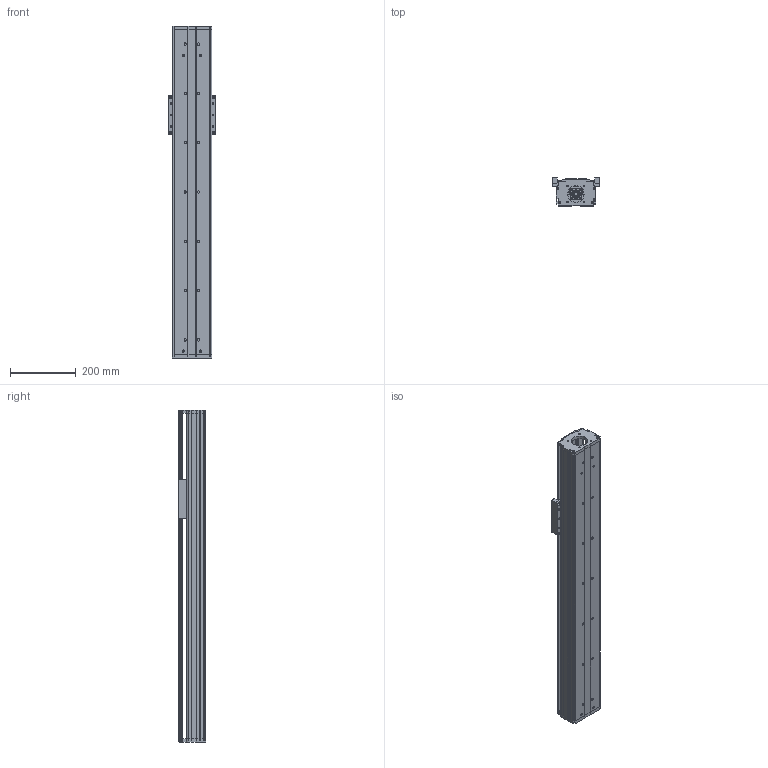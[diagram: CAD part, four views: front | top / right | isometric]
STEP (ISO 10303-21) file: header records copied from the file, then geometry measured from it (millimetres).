
FILE_DESCRIPTION (( 'STEP AP203' ), '1' );
FILE_NAME ('CF120-P800.STEP', '2016-02-23T02:06:40', ( 'Sky123.Org' ), ( 'Sky123.Org' ), 'SwSTEP 2.0', 'SolidWorks 2015', '' );
FILE_SCHEMA (( 'CONFIG_CONTROL_DESIGN' ));
Length unit declared in the file: millimetre
Products named in the file (15): EF12; CF120賑雄啣; cf120-60萇儂釱; CF120蹟譫釱; CF120傷裔耜啣-sigan; EGR15-P600-880; EGH-15-CABZnew; EK12+EF12-P600-744; SFU1605-3蹟譫; CF120-P350-540臏倰第; EK12; CF120-P350-560裔啣; 粣創結啣; CF120-P800
Assembly tree (18 placements, depth 3):
  CF120-P800
    cf120-60萇儂釱
    CF120傷裔耜啣-sigan
    EGH-15-CABZnew  x4
    SFU1605-3蹟譫
    EK12
      EK12
      粣創結啣
    EF12
    CF120賑雄啣
    CF120蹟譫釱
    EGR15-P600-880  x2
    EK12+EF12-P600-744
    CF120-P350-540臏倰第
    CF120-P350-560裔啣
Bounding box: 140 x 84.5 x 1010 mm (x, y, z)
Volume: 3472573.8 mm3; surface area: 1190594.9 mm2
Topology: 13 solids, 65 shells, 7329 faces, 27606 edges, 18973 vertices
Faces by surface type: plane 3545, bspline 2351, cylinder 1043, cone 150, torus 136, sphere 104
Entity records: 131757 total; most frequent: CARTESIAN_POINT 58022, ORIENTED_EDGE 15734, DIRECTION 12343, EDGE_CURVE 8991, VERTEX_POINT 6126, VECTOR 5225, LINE 5225, AXIS2_PLACEMENT_3D 3559
